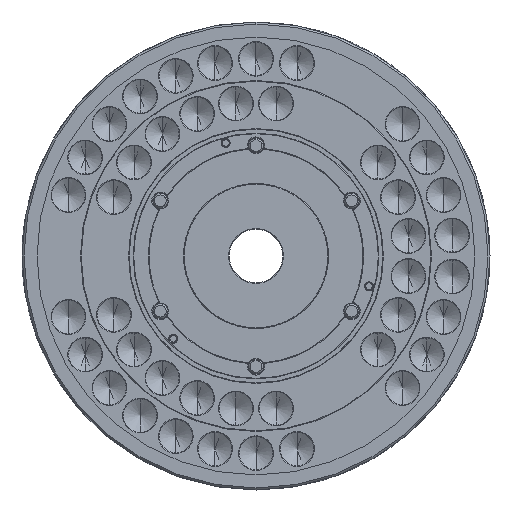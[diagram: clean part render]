
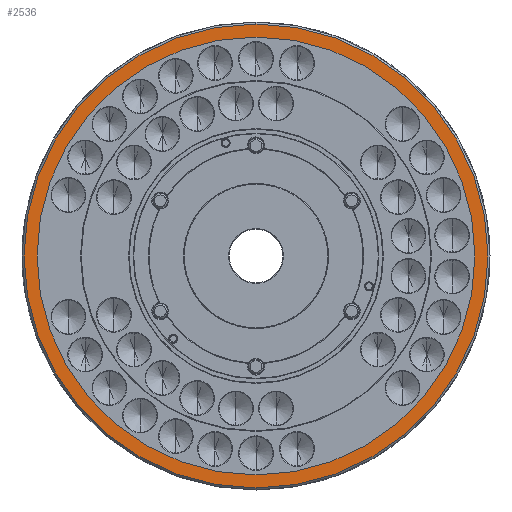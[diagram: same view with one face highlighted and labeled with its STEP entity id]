
A CAD part, left-side view. The second image highlights one B-rep face of the part: STEP entity #2536.
In plain terms, the highlighted planar face has unit normal (-1, 0, 0).
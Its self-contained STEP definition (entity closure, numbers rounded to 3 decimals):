
#2536 = ADVANCED_FACE ( 'NONE', ( #179557, #196572 ), #36073, .T. ) ;
#24665 = DIRECTION ( 'NONE',  ( 0., 0., -1. ) ) ;
#26285 = ORIENTED_EDGE ( 'NONE', *, *, #65970, .F. ) ;
#33830 = CARTESIAN_POINT ( 'NONE',  ( -149., 0., 327.5 ) ) ;
#34338 = CARTESIAN_POINT ( 'NONE',  ( -149., 0., 0. ) ) ;
#34536 = ORIENTED_EDGE ( 'NONE', *, *, #129574, .T. ) ;
#35235 = EDGE_CURVE ( 'NONE', #36490, #221535, #101155, .T. ) ;
#36073 = PLANE ( 'NONE',  #183190 ) ;
#36490 = VERTEX_POINT ( 'NONE', #190823 ) ;
#37950 = DIRECTION ( 'NONE',  ( 1., 0., 0. ) ) ;
#41645 = CARTESIAN_POINT ( 'NONE',  ( -149., 0., 0. ) ) ;
#43085 = ORIENTED_EDGE ( 'NONE', *, *, #35235, .F. ) ;
#54521 = CIRCLE ( 'NONE', #116938, 347. ) ;
#54929 = CARTESIAN_POINT ( 'NONE',  ( -149., 0., 0. ) ) ;
#65970 = EDGE_CURVE ( 'NONE', #221535, #36490, #54521, .T. ) ;
#83120 = CARTESIAN_POINT ( 'NONE',  ( -149., 0., -347. ) ) ;
#83538 = EDGE_LOOP ( 'NONE', ( #26285, #43085 ) ) ;
#89036 = CARTESIAN_POINT ( 'NONE',  ( -149., 0., 0. ) ) ;
#94044 = VERTEX_POINT ( 'NONE', #33830 ) ;
#94317 = DIRECTION ( 'NONE',  ( 1., 0., 0. ) ) ;
#99684 = EDGE_CURVE ( 'NONE', #94044, #155377, #174282, .T. ) ;
#101155 = CIRCLE ( 'NONE', #222154, 347. ) ;
#101554 = ORIENTED_EDGE ( 'NONE', *, *, #99684, .T. ) ;
#109259 = AXIS2_PLACEMENT_3D ( 'NONE', #54929, #37950, #155380 ) ;
#116938 = AXIS2_PLACEMENT_3D ( 'NONE', #34338, #94317, #150483 ) ;
#125648 = DIRECTION ( 'NONE',  ( 1., 0., 0. ) ) ;
#126060 = CARTESIAN_POINT ( 'NONE',  ( -149., 0., -327.5 ) ) ;
#129574 = EDGE_CURVE ( 'NONE', #155377, #94044, #255149, .T. ) ;
#139093 = DIRECTION ( 'NONE',  ( 0., 0., 1. ) ) ;
#150483 = DIRECTION ( 'NONE',  ( 0., 0., -1. ) ) ;
#155377 = VERTEX_POINT ( 'NONE', #126060 ) ;
#155380 = DIRECTION ( 'NONE',  ( 0., 0., -1. ) ) ;
#168213 = EDGE_LOOP ( 'NONE', ( #34536, #101554 ) ) ;
#174282 = CIRCLE ( 'NONE', #207701, 327.5 ) ;
#179557 = FACE_BOUND ( 'NONE', #168213, .T. ) ;
#183190 = AXIS2_PLACEMENT_3D ( 'NONE', #197867, #238319, #139093 ) ;
#184411 = DIRECTION ( 'NONE',  ( 0., 0., -1. ) ) ;
#190823 = CARTESIAN_POINT ( 'NONE',  ( -149., 0., 347. ) ) ;
#196572 = FACE_OUTER_BOUND ( 'NONE', #83538, .T. ) ;
#197867 = CARTESIAN_POINT ( 'NONE',  ( -149., 347., 0. ) ) ;
#203438 = DIRECTION ( 'NONE',  ( 1., 0., 0. ) ) ;
#207701 = AXIS2_PLACEMENT_3D ( 'NONE', #41645, #203438, #24665 ) ;
#221535 = VERTEX_POINT ( 'NONE', #83120 ) ;
#222154 = AXIS2_PLACEMENT_3D ( 'NONE', #89036, #125648, #184411 ) ;
#238319 = DIRECTION ( 'NONE',  ( -1., 0., 0. ) ) ;
#255149 = CIRCLE ( 'NONE', #109259, 327.5 ) ;
